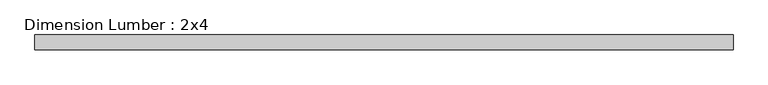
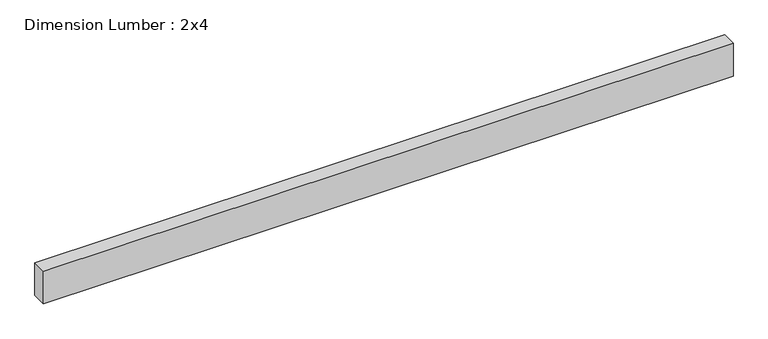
"""IFC4 building model written with IfcOpenShell, lengths in millimetres: beam geometry, Dimension Lumber : 2x4."""

from ifc_helpers import new_model, si_unit, frame, origin, place, context, project, spatial, polyline, outline, extrude, source, transform, mapped, element, save


def dimension_lumber_2x4_a557b721(model_context):
    return source(origin(), model_context, "Body", "SweptSolid", [
        extrude(outline(polyline([(887.7535551, 19.05), (887.7535551, -19.05), (-887.7535551, -19.05), (-887.7535551, 19.05), (887.7535551, 19.05)])), frame((0.0, 0.0, -44.45), z_axis=(0.0, 0.0, 1.0), x_axis=(1.0, 0.0, 0.0)), (0.0, 0.0, 1.0), 88.9),
    ])


if __name__ == "__main__":
    model = new_model("IFC4")
    model_context = context("Model", 3, world=origin())
    ifc_project = project(units=[si_unit("LENGTHUNIT", "METRE", prefix="MILLI")], contexts=[model_context])
    site = spatial("IfcSite", under=ifc_project)
    building = spatial("IfcBuilding", under=site)
    placement = place(None, origin())
    dimension_lumber_2x4_shape = dimension_lumber_2x4_a557b721(model_context)
    element("IfcBeam", 1, ObjectType="Dimension Lumber : 2x4", at=placement, inside=building, context=model_context, shape_type="MappedRepresentation", body=[
        mapped(dimension_lumber_2x4_shape, transform((0.0, 0.0, 0.0), x_axis=(1.0, 0.0, 0.0), y_axis=(0.0, 1.0, 0.0), z_axis=(0.0, 0.0, 1.0))),
    ])
    save(model, "model.ifc")
